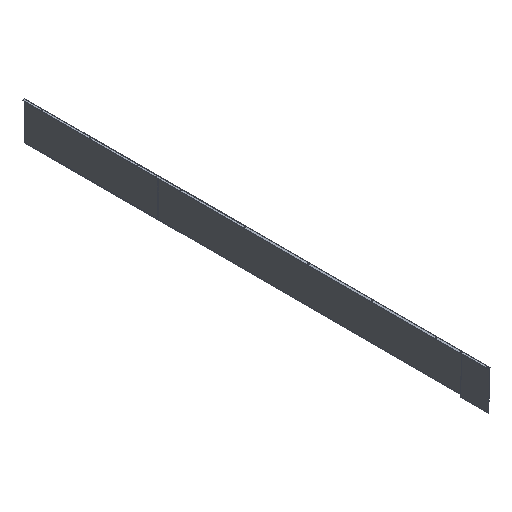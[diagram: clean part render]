
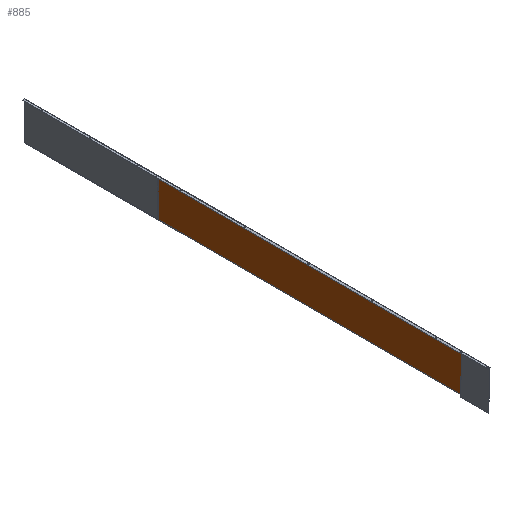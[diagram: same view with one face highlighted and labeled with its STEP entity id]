
A CAD part, isometric view. The second image highlights one B-rep face of the part: STEP entity #885.
In plain terms, the highlighted planar face has unit normal (-1, 0, 0) as drawn and (0, 0, 1) by its records, which use the part's own axes.
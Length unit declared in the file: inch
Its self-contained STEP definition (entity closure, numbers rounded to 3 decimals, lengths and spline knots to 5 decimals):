
#37 = CARTESIAN_POINT ( 'NONE',  ( 35.49721, 1.84357, 0. ) ) ;
#62 = LINE ( 'NONE', #2207, #65 ) ;
#65 = VECTOR ( 'NONE', #2241, 39.37008 ) ;
#306 = LINE ( 'NONE', #37, #321 ) ;
#319 = DIRECTION ( 'NONE',  ( 0., -1., 0. ) ) ;
#321 = VECTOR ( 'NONE', #528, 39.37008 ) ;
#333 = LINE ( 'NONE', #2074, #370 ) ;
#370 = VECTOR ( 'NONE', #319, 39.37008 ) ;
#413 = EDGE_CURVE ( 'NONE', #468, #1820, #1460, .T. ) ;
#468 = VERTEX_POINT ( 'NONE', #642 ) ;
#528 = DIRECTION ( 'NONE',  ( 1., 0., 0. ) ) ;
#546 = DIRECTION ( 'NONE',  ( -1., 0., 0. ) ) ;
#562 = CARTESIAN_POINT ( 'NONE',  ( 24.96796, 82.84357, 0. ) ) ;
#642 = CARTESIAN_POINT ( 'NONE',  ( 35.44896, 82.84357, 0. ) ) ;
#885 = ADVANCED_FACE ( 'NONE', ( #1091 ), #1953, .T. ) ;
#894 = CARTESIAN_POINT ( 'NONE',  ( 35.44896, 1.84357, 0. ) ) ;
#1086 = CARTESIAN_POINT ( 'NONE',  ( 25.36464, 1.84357, 0. ) ) ;
#1091 = FACE_OUTER_BOUND ( 'NONE', #1419, .T. ) ;
#1110 = CARTESIAN_POINT ( 'NONE',  ( 25.36464, 82.84357, 0. ) ) ;
#1120 = VERTEX_POINT ( 'NONE', #894 ) ;
#1214 = ORIENTED_EDGE ( 'NONE', *, *, #1749, .T. ) ;
#1253 = VERTEX_POINT ( 'NONE', #1086 ) ;
#1419 = EDGE_LOOP ( 'NONE', ( #1890, #1214, #2159, #1759 ) ) ;
#1453 = VECTOR ( 'NONE', #546, 39.37008 ) ;
#1460 = LINE ( 'NONE', #562, #1453 ) ;
#1676 = AXIS2_PLACEMENT_3D ( 'NONE', #1971, #2236, #2265 ) ;
#1749 = EDGE_CURVE ( 'NONE', #1820, #1253, #333, .T. ) ;
#1759 = ORIENTED_EDGE ( 'NONE', *, *, #2096, .T. ) ;
#1792 = EDGE_CURVE ( 'NONE', #1253, #1120, #306, .T. ) ;
#1820 = VERTEX_POINT ( 'NONE', #1110 ) ;
#1890 = ORIENTED_EDGE ( 'NONE', *, *, #413, .T. ) ;
#1953 = PLANE ( 'NONE',  #1676 ) ;
#1971 = CARTESIAN_POINT ( 'NONE',  ( 0., 0., 0. ) ) ;
#2074 = CARTESIAN_POINT ( 'NONE',  ( 25.36464, 0., 0. ) ) ;
#2096 = EDGE_CURVE ( 'NONE', #1120, #468, #62, .T. ) ;
#2159 = ORIENTED_EDGE ( 'NONE', *, *, #1792, .T. ) ;
#2207 = CARTESIAN_POINT ( 'NONE',  ( 35.44896, 0., 0. ) ) ;
#2236 = DIRECTION ( 'NONE',  ( 0., 0., 1. ) ) ;
#2241 = DIRECTION ( 'NONE',  ( 0., 1., 0. ) ) ;
#2265 = DIRECTION ( 'NONE',  ( 1., 0., 0. ) ) ;
